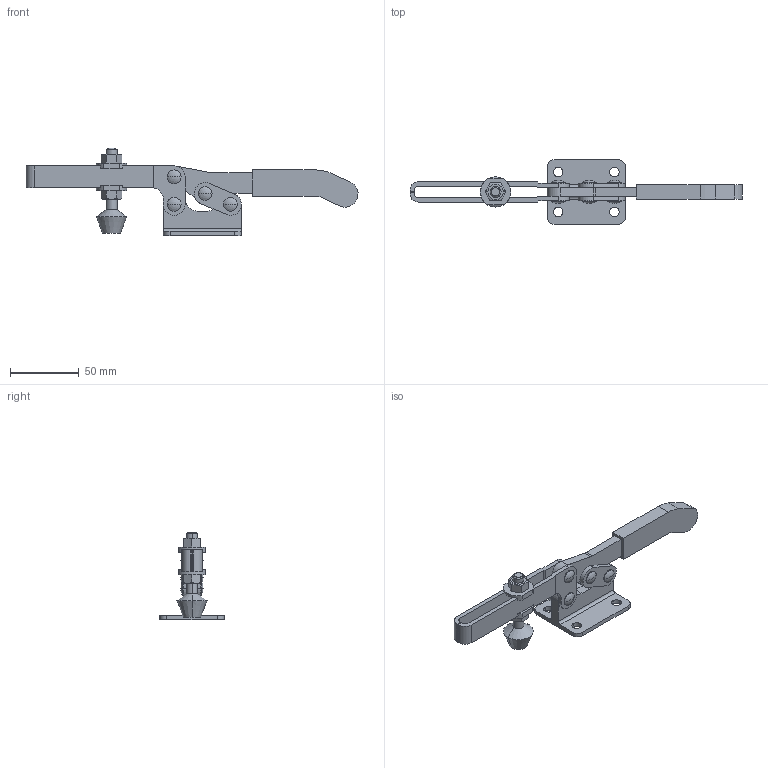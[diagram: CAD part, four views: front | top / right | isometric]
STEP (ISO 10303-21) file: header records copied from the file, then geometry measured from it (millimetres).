
FILE_DESCRIPTION(('CATIA V5 STEP Exchange'),'2;1');
FILE_NAME('D:\Model\toggle\toggle_standard\KJF_023_22F.stp','2005-06-24T02:57:12+00:00',('none'),('none'),'CATIA Version 5 Release 11 (IN-9)','CATIA V5 STEP AP203',' none');
FILE_SCHEMA(('CONFIG_CONTROL_DESIGN'));
Length unit declared in the file: millimetre
Products named in the file (1): Part1
Bounding box: 241.96 x 47 x 63.89 mm (x, y, z)
Volume: 66879.4 mm3; surface area: 37671 mm2
Topology: 15 solids, 15 shells, 204 faces, 499 edges, 318 vertices
Faces by surface type: plane 100, cylinder 78, sphere 16, cone 6, torus 4
Entity records: 5745 total; most frequent: CARTESIAN_POINT 1150, ORIENTED_EDGE 966, DIRECTION 803, EDGE_CURVE 483, AXIS2_PLACEMENT_3D 373, VERTEX_POINT 318, VECTOR 263, LINE 263
